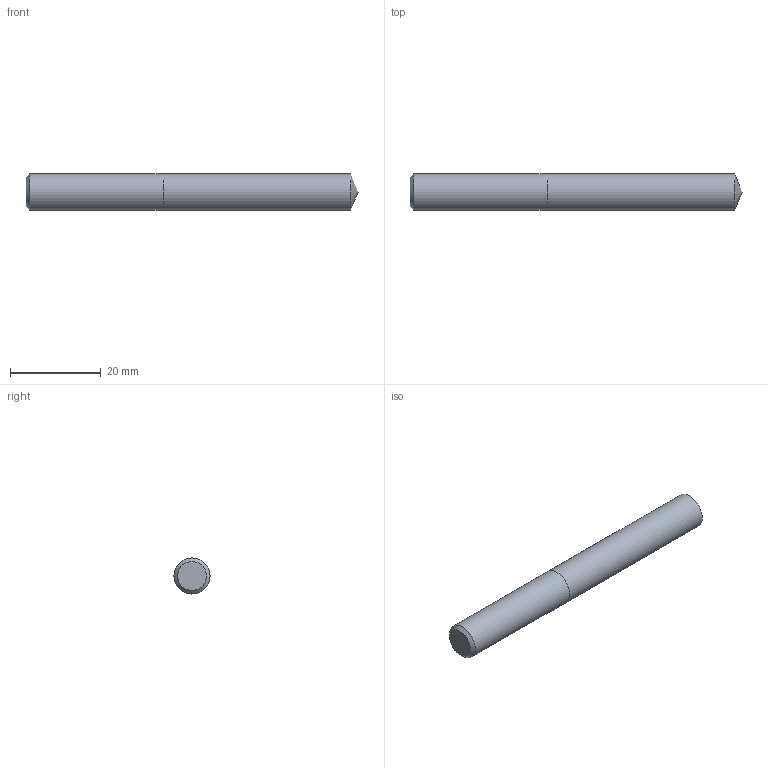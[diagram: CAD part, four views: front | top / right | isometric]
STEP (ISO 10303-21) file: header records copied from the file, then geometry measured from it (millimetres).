
FILE_DESCRIPTION (( 'STEP AP214' ), '1' );
FILE_NAME ('03-2419.STEP', '2022-06-03T07:31:26', ( 'USER' ), ( '' ), 'SwSTEP 2.0', 'SolidWorks 2018', '' );
FILE_SCHEMA (( 'AUTOMOTIVE_DESIGN' ));
Length unit declared in the file: inch
Products named in the file (1): 03-2419
Bounding box: 73.08 x 7.94 x 7.94 mm (x, y, z)
Volume: 3554.7 mm3; surface area: 1971 mm2
Topology: 2 solids, 2 shells, 7 faces, 11 edges, 7 vertices
Faces by surface type: plane 3, cylinder 2, cone 2
Full cylindrical faces by diameter (mm): 7.938 x2
Entity records: 214 total; most frequent: DIRECTION 26, CARTESIAN_POINT 18, AXIS2_PLACEMENT_3D 13, ORIENTED_EDGE 10, EDGE_LOOP 10, FACE_OUTER_BOUND 9, ADVANCED_FACE 7, UNCERTAINTY_MEASURE_WITH_UNIT 7
